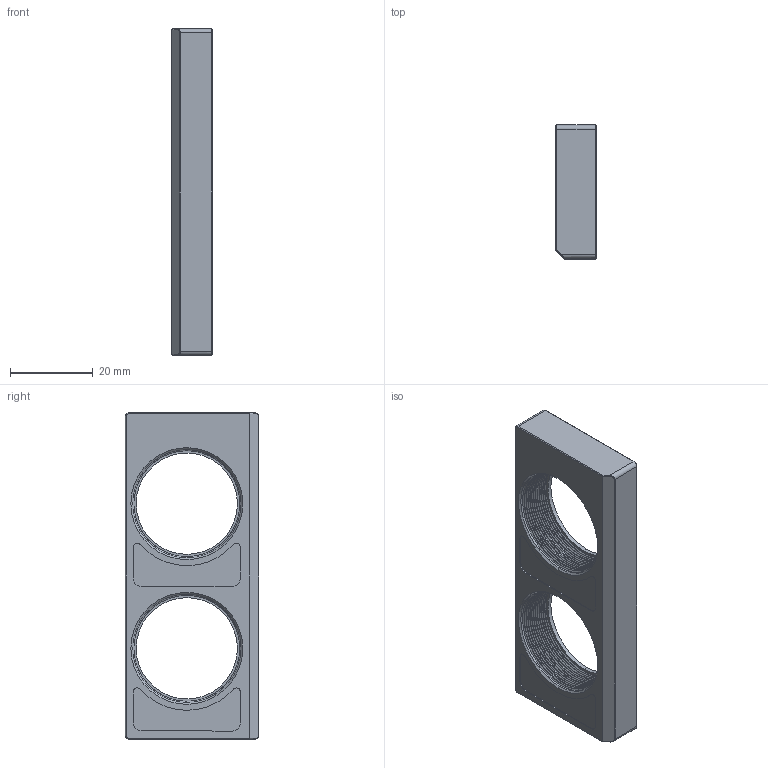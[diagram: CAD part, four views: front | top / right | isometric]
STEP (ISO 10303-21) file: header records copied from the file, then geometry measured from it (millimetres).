
FILE_DESCRIPTION((''),'2;1');
FILE_NAME('WO-X2','2020-10-19T',('Administrator'),(''),'CREO PARAMETRIC BY PTC INC, 2015290','CREO PARAMETRIC BY PTC INC, 2015290','');
FILE_SCHEMA(('CONFIG_CONTROL_DESIGN'));
Length unit declared in the file: millimetre
Products named in the file (1): WO-X2
Bounding box: 9.8 x 32.3 x 79 mm (x, y, z)
Volume: 14409.7 mm3; surface area: 7418.6 mm2
Topology: 1 solids, 1 shells, 149 faces, 391 edges, 248 vertices
Faces by surface type: cylinder 70, plane 35, bspline 34, cone 10
Entity records: 11301 total; most frequent: CARTESIAN_POINT 7962, ORIENTED_EDGE 782, DIRECTION 517, EDGE_CURVE 391, VERTEX_POINT 248, VECTOR 187, LINE 187, AXIS2_PLACEMENT_3D 165
